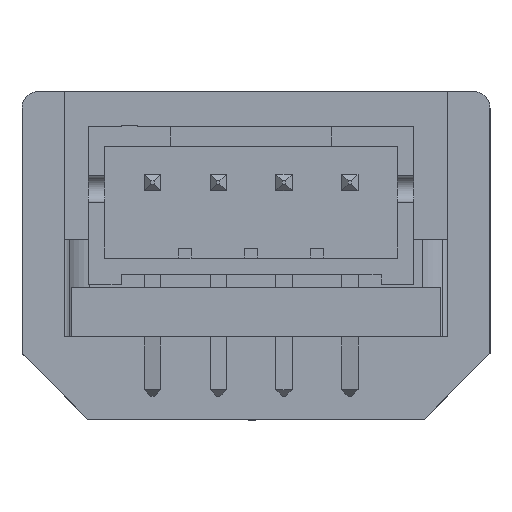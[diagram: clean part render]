
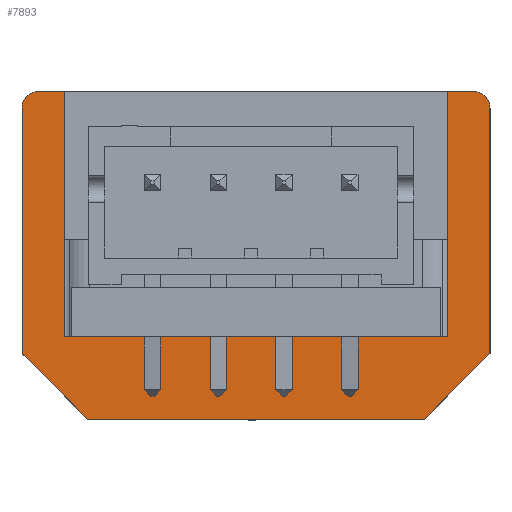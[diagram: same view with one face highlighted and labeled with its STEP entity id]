
A CAD part, left-side view. The second image highlights one B-rep face of the part: STEP entity #7893.
In plain terms, the highlighted planar face has unit normal (-1, 0, 0).
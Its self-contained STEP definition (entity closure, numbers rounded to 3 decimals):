
#305=CIRCLE('',#8513,0.5);
#308=CIRCLE('',#8520,0.5);
#706=FACE_OUTER_BOUND('',#1146,.T.);
#1146=EDGE_LOOP('',(#6839,#6840,#6841,#6842,#6843,#6844,#6845,#6846,#6847,
#6848,#6849,#6850));
#1920=LINE('',#12290,#2844);
#1923=LINE('',#12297,#2847);
#1933=LINE('',#12335,#2857);
#1997=LINE('',#12542,#2921);
#2027=LINE('',#12640,#2951);
#2033=LINE('',#12651,#2957);
#2068=LINE('',#12752,#2992);
#2071=LINE('',#12756,#2995);
#2073=LINE('',#12765,#2997);
#2079=LINE('',#12772,#3003);
#2844=VECTOR('',#10052,10.);
#2847=VECTOR('',#10059,10.);
#2857=VECTOR('',#10089,10.);
#2921=VECTOR('',#10315,10.);
#2951=VECTOR('',#10431,10.);
#2957=VECTOR('',#10439,10.);
#2992=VECTOR('',#10534,10.);
#2995=VECTOR('',#10537,10.);
#2997=VECTOR('',#10547,10.);
#3003=VECTOR('',#10555,10.);
#3550=VERTEX_POINT('',#12287);
#3551=VERTEX_POINT('',#12289);
#3553=VERTEX_POINT('',#12295);
#3571=VERTEX_POINT('',#12333);
#3632=VERTEX_POINT('',#12539);
#3633=VERTEX_POINT('',#12541);
#3658=VERTEX_POINT('',#12639);
#3662=VERTEX_POINT('',#12649);
#3696=VERTEX_POINT('',#12745);
#3697=VERTEX_POINT('',#12749);
#3698=VERTEX_POINT('',#12751);
#3702=VERTEX_POINT('',#12764);
#4524=EDGE_CURVE('',#3550,#3551,#1920,.T.);
#4528=EDGE_CURVE('',#3553,#3550,#1923,.T.);
#4547=EDGE_CURVE('',#3571,#3553,#1933,.T.);
#4649=EDGE_CURVE('',#3632,#3633,#1997,.T.);
#4697=EDGE_CURVE('',#3633,#3658,#2027,.T.);
#4703=EDGE_CURVE('',#3571,#3662,#2033,.T.);
#4753=EDGE_CURVE('',#3696,#3662,#305,.T.);
#4755=EDGE_CURVE('',#3697,#3698,#2068,.T.);
#4758=EDGE_CURVE('',#3658,#3696,#2071,.T.);
#4762=EDGE_CURVE('',#3551,#3702,#2073,.T.);
#4768=EDGE_CURVE('',#3698,#3632,#2079,.T.);
#4769=EDGE_CURVE('',#3702,#3697,#308,.T.);
#6839=ORIENTED_EDGE('',*,*,#4768,.F.);
#6840=ORIENTED_EDGE('',*,*,#4755,.F.);
#6841=ORIENTED_EDGE('',*,*,#4769,.F.);
#6842=ORIENTED_EDGE('',*,*,#4762,.F.);
#6843=ORIENTED_EDGE('',*,*,#4524,.F.);
#6844=ORIENTED_EDGE('',*,*,#4528,.F.);
#6845=ORIENTED_EDGE('',*,*,#4547,.F.);
#6846=ORIENTED_EDGE('',*,*,#4703,.T.);
#6847=ORIENTED_EDGE('',*,*,#4753,.F.);
#6848=ORIENTED_EDGE('',*,*,#4758,.F.);
#6849=ORIENTED_EDGE('',*,*,#4697,.F.);
#6850=ORIENTED_EDGE('',*,*,#4649,.F.);
#7262=PLANE('',#8519);
#7893=ADVANCED_FACE('',(#706),#7262,.T.);
#8513=AXIS2_PLACEMENT_3D('',#12747,#10529,#10530);
#8519=AXIS2_PLACEMENT_3D('',#12771,#10553,#10554);
#8520=AXIS2_PLACEMENT_3D('',#12773,#10556,#10557);
#10052=DIRECTION('',(0.,0.707,0.707));
#10059=DIRECTION('',(0.,1.,0.));
#10089=DIRECTION('',(0.,0.707,-0.707));
#10315=DIRECTION('',(0.,-1.,0.));
#10431=DIRECTION('',(0.,0.,1.));
#10439=DIRECTION('',(0.,0.,1.));
#10529=DIRECTION('center_axis',(1.,0.,0.));
#10530=DIRECTION('ref_axis',(0.,-0.707,0.707));
#10534=DIRECTION('',(0.,-1.,0.));
#10537=DIRECTION('',(0.,-1.,0.));
#10547=DIRECTION('',(0.,0.,1.));
#10553=DIRECTION('center_axis',(-1.,0.,0.));
#10554=DIRECTION('ref_axis',(0.,-1.,0.));
#10555=DIRECTION('',(0.,0.,-1.));
#10556=DIRECTION('center_axis',(1.,0.,0.));
#10557=DIRECTION('ref_axis',(0.,0.707,0.707));
#12287=CARTESIAN_POINT('',(111.199,-103.518,-2.5));
#12289=CARTESIAN_POINT('',(111.199,-101.518,-0.5));
#12290=CARTESIAN_POINT('',(111.199,-105.126,-4.108));
#12295=CARTESIAN_POINT('',(111.199,-113.75,-2.5));
#12297=CARTESIAN_POINT('',(111.199,-101.518,-2.5));
#12333=CARTESIAN_POINT('',(111.199,-115.75,-0.5));
#12335=CARTESIAN_POINT('',(111.199,-115.05,-1.2));
#12539=CARTESIAN_POINT('',(111.199,-102.818,0.));
#12541=CARTESIAN_POINT('',(111.199,-114.45,0.));
#12542=CARTESIAN_POINT('',(111.199,-101.518,0.));
#12639=CARTESIAN_POINT('',(111.199,-114.45,7.46));
#12640=CARTESIAN_POINT('',(111.199,-114.45,0.86));
#12649=CARTESIAN_POINT('',(111.199,-115.75,6.96));
#12651=CARTESIAN_POINT('',(111.199,-115.75,0.86));
#12745=CARTESIAN_POINT('',(111.199,-115.25,7.46));
#12747=CARTESIAN_POINT('Origin',(111.199,-115.25,6.96));
#12749=CARTESIAN_POINT('',(111.199,-102.018,7.46));
#12751=CARTESIAN_POINT('',(111.199,-102.818,7.46));
#12752=CARTESIAN_POINT('',(111.199,-101.518,7.46));
#12756=CARTESIAN_POINT('',(111.199,-114.45,7.46));
#12764=CARTESIAN_POINT('',(111.199,-101.518,6.96));
#12765=CARTESIAN_POINT('',(111.199,-101.518,0.));
#12771=CARTESIAN_POINT('Origin',(111.199,-114.45,0.86));
#12772=CARTESIAN_POINT('',(111.199,-102.818,3.46));
#12773=CARTESIAN_POINT('Origin',(111.199,-102.018,6.96));
